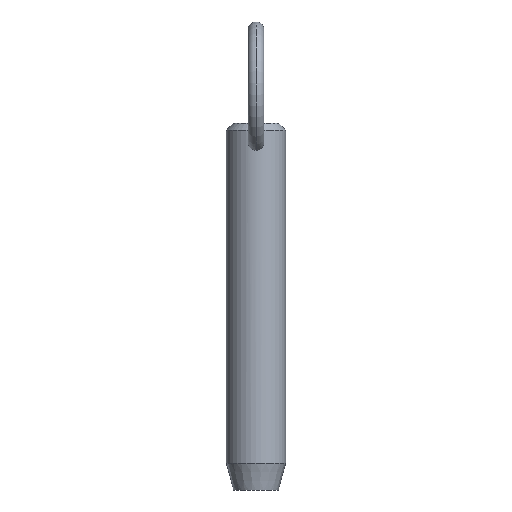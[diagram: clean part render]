
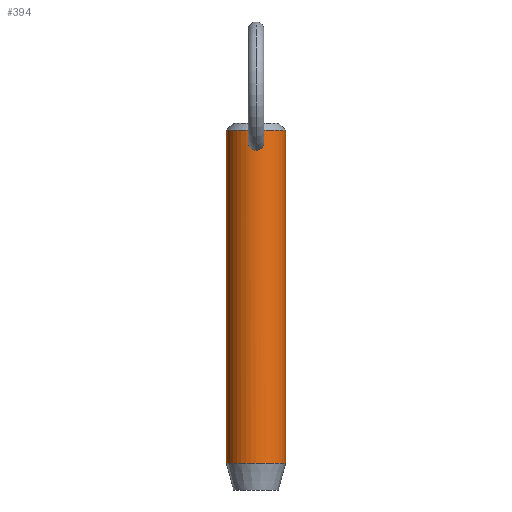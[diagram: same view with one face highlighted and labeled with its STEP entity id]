
A CAD part, front view. The second image highlights one B-rep face of the part: STEP entity #394.
In plain terms, the highlighted cylindrical face has radius 5.55 mm (diameter 11.1 mm), a partial arc.
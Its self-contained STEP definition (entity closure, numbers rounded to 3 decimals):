
#9 = CARTESIAN_POINT ( 'NONE',  ( 0.417, -5.535, 52.967 ) ) ;
#11 = VERTEX_POINT ( 'NONE', #358 ) ;
#17 = CARTESIAN_POINT ( 'NONE',  ( 1.44, -5.36, 51.686 ) ) ;
#30 = CARTESIAN_POINT ( 'NONE',  ( 0.421, -5.535, 49.632 ) ) ;
#32 = CARTESIAN_POINT ( 'NONE',  ( 0., -5.55, 49.577 ) ) ;
#35 = CARTESIAN_POINT ( 'NONE',  ( -0.212, -5.547, 49.588 ) ) ;
#39 = DIRECTION ( 'NONE',  ( -1., 0., 0. ) ) ;
#41 = VERTEX_POINT ( 'NONE', #238 ) ;
#42 = CARTESIAN_POINT ( 'NONE',  ( -0.939, -5.472, 52.61 ) ) ;
#44 = AXIS2_PLACEMENT_3D ( 'NONE', #95, #263, #393 ) ;
#46 = CARTESIAN_POINT ( 'NONE',  ( -1.362, -5.381, 50.432 ) ) ;
#49 = CARTESIAN_POINT ( 'NONE',  ( 0., 0., -9.2 ) ) ;
#51 = VERTEX_POINT ( 'NONE', #274 ) ;
#58 = ORIENTED_EDGE ( 'NONE', *, *, #352, .T. ) ;
#63 = CARTESIAN_POINT ( 'NONE',  ( -5.55, 0., 48.3 ) ) ;
#69 = CARTESIAN_POINT ( 'NONE',  ( 1.295, -5.397, 52.082 ) ) ;
#79 = CARTESIAN_POINT ( 'NONE',  ( -1.195, -5.421, 52.271 ) ) ;
#81 = CARTESIAN_POINT ( 'NONE',  ( -0.211, -5.547, 53.029 ) ) ;
#93 = ORIENTED_EDGE ( 'NONE', *, *, #415, .T. ) ;
#95 = CARTESIAN_POINT ( 'NONE',  ( 0., 0., 53.35 ) ) ;
#100 = CARTESIAN_POINT ( 'NONE',  ( 0., -5.55, 49.577 ) ) ;
#103 = VERTEX_POINT ( 'NONE', #406 ) ;
#110 = CARTESIAN_POINT ( 'NONE',  ( 0.716, -5.504, 49.752 ) ) ;
#112 = CARTESIAN_POINT ( 'NONE',  ( 0., -5.55, 49.577 ) ) ;
#118 = CARTESIAN_POINT ( 'NONE',  ( -0.976, -5.464, 49.931 ) ) ;
#124 = CARTESIAN_POINT ( 'NONE',  ( 5.55, 0., 48.3 ) ) ;
#127 = CARTESIAN_POINT ( 'NONE',  ( -1.455, -5.356, 50.736 ) ) ;
#130 = EDGE_CURVE ( 'NONE', #103, #41, #476, .T. ) ;
#131 = DIRECTION ( 'NONE',  ( 0., 0., 1. ) ) ;
#143 = VERTEX_POINT ( 'NONE', #353 ) ;
#144 = CARTESIAN_POINT ( 'NONE',  ( 1.363, -5.38, 50.434 ) ) ;
#145 = CARTESIAN_POINT ( 'NONE',  ( 1.26, -5.407, 50.243 ) ) ;
#147 = LINE ( 'NONE', #63, #339 ) ;
#165 = CARTESIAN_POINT ( 'NONE',  ( -1.485, -5.348, 51.479 ) ) ;
#169 = CARTESIAN_POINT ( 'NONE',  ( -0.106, -5.55, 53.045 ) ) ;
#176 = FACE_BOUND ( 'NONE', #267, .T. ) ;
#182 = CARTESIAN_POINT ( 'NONE',  ( 1.5, -5.343, 51.054 ) ) ;
#200 = CARTESIAN_POINT ( 'NONE',  ( -0.107, -5.55, 49.577 ) ) ;
#209 = CARTESIAN_POINT ( 'NONE',  ( 0., 0., 48.3 ) ) ;
#210 = CARTESIAN_POINT ( 'NONE',  ( -1.26, -5.407, 50.242 ) ) ;
#213 = CARTESIAN_POINT ( 'NONE',  ( -0.513, -5.527, 52.923 ) ) ;
#215 = VERTEX_POINT ( 'NONE', #100 ) ;
#221 = LINE ( 'NONE', #124, #311 ) ;
#227 = DIRECTION ( 'NONE',  ( -1., 0., 0. ) ) ;
#235 = CARTESIAN_POINT ( 'NONE',  ( 1.455, -5.356, 50.738 ) ) ;
#236 = CIRCLE ( 'NONE', #44, 5.55 ) ;
#238 = CARTESIAN_POINT ( 'NONE',  ( 5.55, 0., -9.2 ) ) ;
#240 = AXIS2_PLACEMENT_3D ( 'NONE', #49, #131, #227 ) ;
#244 = CARTESIAN_POINT ( 'NONE',  ( 0.213, -5.547, 49.588 ) ) ;
#252 = CARTESIAN_POINT ( 'NONE',  ( -1.5, -5.343, 51.053 ) ) ;
#261 = CARTESIAN_POINT ( 'NONE',  ( 0.106, -5.55, 53.045 ) ) ;
#263 = DIRECTION ( 'NONE',  ( 0., 0., -1. ) ) ;
#264 = DIRECTION ( 'NONE',  ( 0., 0., -1. ) ) ;
#267 = EDGE_LOOP ( 'NONE', ( #500, #58 ) ) ;
#271 = CARTESIAN_POINT ( 'NONE',  ( 0.977, -5.464, 49.932 ) ) ;
#274 = CARTESIAN_POINT ( 'NONE',  ( 0., -5.55, 53.045 ) ) ;
#285 = DIRECTION ( 'NONE',  ( 0., 0., -1. ) ) ;
#286 = EDGE_CURVE ( 'NONE', #11, #103, #147, .T. ) ;
#287 = CARTESIAN_POINT ( 'NONE',  ( 0., -5.55, 53.045 ) ) ;
#294 = CARTESIAN_POINT ( 'NONE',  ( -0.416, -5.535, 52.967 ) ) ;
#302 = CARTESIAN_POINT ( 'NONE',  ( 1.194, -5.422, 52.271 ) ) ;
#310 = CARTESIAN_POINT ( 'NONE',  ( 1.055, -5.449, 50.005 ) ) ;
#311 = VECTOR ( 'NONE', #480, 1000. ) ;
#316 = B_SPLINE_CURVE_WITH_KNOTS ( 'NONE', 3,
 ( #470, #261, #392, #9, #399, #504, #467, #302, #69, #17, #430, #350, #182, #464, #235, #144, #145, #310, #271, #514, #110, #486, #30, #244, #359, #32 ),
 .UNSPECIFIED., .F., .F.,
 ( 4, 2, 2, 2, 2, 2, 2, 2, 2, 2, 2, 2, 4 ),
 ( 0.005, 0.005, 0.005, 0.006, 0.006, 0.007, 0.007, 0.008, 0.008, 0.009, 0.009, 0.009, 0.01 ),
 .UNSPECIFIED. ) ;
#317 = CYLINDRICAL_SURFACE ( 'NONE', #383, 5.55 ) ;
#320 = ORIENTED_EDGE ( 'NONE', *, *, #286, .T. ) ;
#325 = B_SPLINE_CURVE_WITH_KNOTS ( 'NONE', 3,
 ( #112, #200, #35, #410, #527, #326, #494, #118, #330, #210, #46, #127, #371, #252, #525, #165, #375, #332, #79, #42, #487, #213, #294, #81, #169, #287 ),
 .UNSPECIFIED., .F., .F.,
 ( 4, 2, 2, 2, 2, 2, 2, 2, 2, 2, 2, 2, 4 ),
 ( 0.01, 0.01, 0.01, 0.011, 0.011, 0.012, 0.012, 0.012, 0.013, 0.013, 0.014, 0.014, 0.015 ),
 .UNSPECIFIED. ) ;
#326 = CARTESIAN_POINT ( 'NONE',  ( -0.716, -5.504, 49.752 ) ) ;
#330 = CARTESIAN_POINT ( 'NONE',  ( -1.054, -5.449, 50.004 ) ) ;
#332 = CARTESIAN_POINT ( 'NONE',  ( -1.294, -5.398, 52.086 ) ) ;
#333 = EDGE_CURVE ( 'NONE', #51, #215, #316, .T. ) ;
#339 = VECTOR ( 'NONE', #264, 1000. ) ;
#350 = CARTESIAN_POINT ( 'NONE',  ( 1.503, -5.343, 51.159 ) ) ;
#352 = EDGE_CURVE ( 'NONE', #215, #51, #325, .T. ) ;
#353 = CARTESIAN_POINT ( 'NONE',  ( 5.55, 0., 53.35 ) ) ;
#358 = CARTESIAN_POINT ( 'NONE',  ( -5.55, 0., 53.35 ) ) ;
#359 = CARTESIAN_POINT ( 'NONE',  ( 0.107, -5.55, 49.577 ) ) ;
#371 = CARTESIAN_POINT ( 'NONE',  ( -1.477, -5.35, 50.842 ) ) ;
#375 = CARTESIAN_POINT ( 'NONE',  ( -1.44, -5.36, 51.687 ) ) ;
#381 = ORIENTED_EDGE ( 'NONE', *, *, #130, .T. ) ;
#383 = AXIS2_PLACEMENT_3D ( 'NONE', #209, #285, #39 ) ;
#387 = EDGE_LOOP ( 'NONE', ( #511, #93, #320, #381 ) ) ;
#392 = CARTESIAN_POINT ( 'NONE',  ( 0.214, -5.547, 53.028 ) ) ;
#393 = DIRECTION ( 'NONE',  ( 1., 0., 0. ) ) ;
#394 = ADVANCED_FACE ( 'NONE', ( #434, #176 ), #317, .T. ) ;
#396 = EDGE_CURVE ( 'NONE', #143, #41, #221, .T. ) ;
#399 = CARTESIAN_POINT ( 'NONE',  ( 0.515, -5.527, 52.922 ) ) ;
#406 = CARTESIAN_POINT ( 'NONE',  ( -5.55, 0., -9.2 ) ) ;
#410 = CARTESIAN_POINT ( 'NONE',  ( -0.42, -5.535, 49.632 ) ) ;
#415 = EDGE_CURVE ( 'NONE', #143, #11, #236, .T. ) ;
#430 = CARTESIAN_POINT ( 'NONE',  ( 1.486, -5.347, 51.474 ) ) ;
#434 = FACE_OUTER_BOUND ( 'NONE', #387, .T. ) ;
#464 = CARTESIAN_POINT ( 'NONE',  ( 1.477, -5.35, 50.844 ) ) ;
#467 = CARTESIAN_POINT ( 'NONE',  ( 0.941, -5.471, 52.607 ) ) ;
#470 = CARTESIAN_POINT ( 'NONE',  ( 0., -5.55, 53.045 ) ) ;
#476 = CIRCLE ( 'NONE', #240, 5.55 ) ;
#480 = DIRECTION ( 'NONE',  ( 0., 0., -1. ) ) ;
#486 = CARTESIAN_POINT ( 'NONE',  ( 0.523, -5.526, 49.666 ) ) ;
#487 = CARTESIAN_POINT ( 'NONE',  ( -0.785, -5.497, 52.758 ) ) ;
#494 = CARTESIAN_POINT ( 'NONE',  ( -0.807, -5.492, 49.805 ) ) ;
#500 = ORIENTED_EDGE ( 'NONE', *, *, #333, .T. ) ;
#504 = CARTESIAN_POINT ( 'NONE',  ( 0.786, -5.497, 52.757 ) ) ;
#511 = ORIENTED_EDGE ( 'NONE', *, *, #396, .F. ) ;
#514 = CARTESIAN_POINT ( 'NONE',  ( 0.807, -5.492, 49.806 ) ) ;
#525 = CARTESIAN_POINT ( 'NONE',  ( -1.503, -5.343, 51.159 ) ) ;
#527 = CARTESIAN_POINT ( 'NONE',  ( -0.523, -5.526, 49.666 ) ) ;
